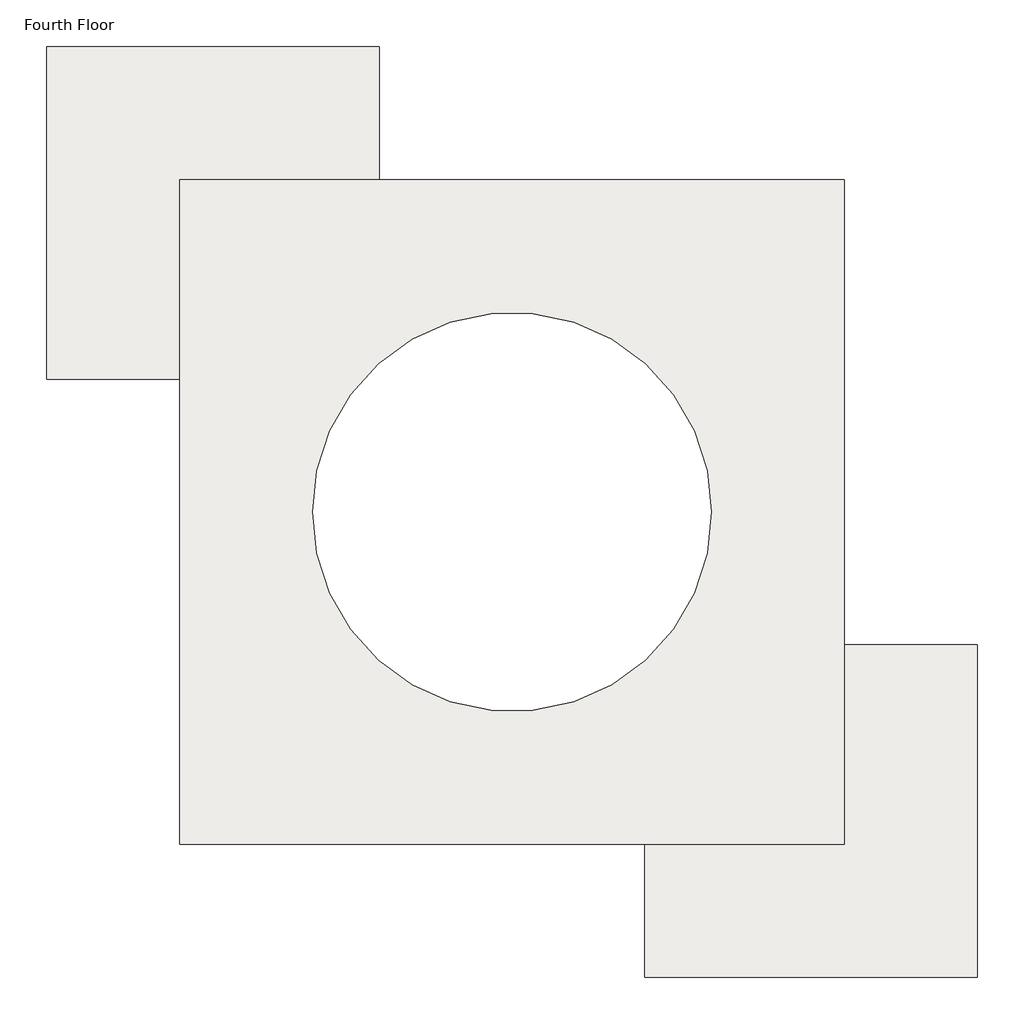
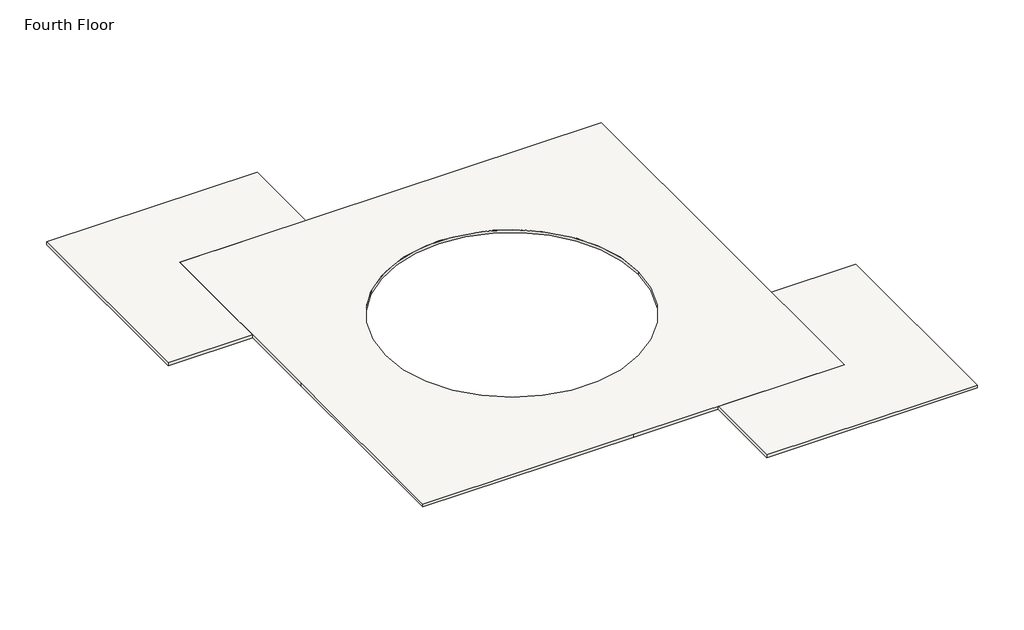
# One storey: 2 slabs.
"""IFC4 building model written with IfcOpenShell, lengths in millimetres."""

import ifcopenshell
import ifcopenshell.guid

model = None  # the IFC model being written
_history = None  # IfcOwnerHistory: only IFC2X3 demands one
_inside = {}  # id of a spatial element -> (the spatial element, [elements in it])
_under = {}  # id of a project, library or spatial element -> (it, [spatial elements below it])
_declared = {}  # id of a project -> (the project, [libraries it declares])
_typed = {}  # id of a type object -> (the type object, [elements of that type])
_made_of = {}  # id of a material, layer set ... -> (it, [elements and type objects made of it])


def new_model(schema):
    """Start an empty IFC model of exactly this schema.

    Asked for "IFC4X3", IfcOpenShell would pick the latest addendum, in which some entities
    have other attributes; the version numbers below select the first issue.
    IFC2X3 requires an IfcOwnerHistory on every rooted entity: one is made here for all.
    """
    global model, _history
    if schema == "IFC4X3":
        model = ifcopenshell.file(schema_version=(4, 3, 0, 0))
    else:
        model = ifcopenshell.file(schema=schema)
    _inside.clear()
    _under.clear()
    _declared.clear()
    _typed.clear()
    _made_of.clear()
    _history = None
    if model.schema == "IFC2X3":
        org = make("IfcOrganization", Name="unknown")
        user = make(
            "IfcPersonAndOrganization",
            ThePerson=make("IfcPerson", FamilyName="unknown"),
            TheOrganization=org,
        )
        app = make(
            "IfcApplication",
            ApplicationDeveloper=org,
            Version="unknown",
            ApplicationFullName="unknown",
            ApplicationIdentifier="unknown",
        )
        _history = make(
            "IfcOwnerHistory",
            OwningUser=user,
            OwningApplication=app,
            ChangeAction="ADDED",
            CreationDate=0,
        )
    return model


def make(cls, **values):
    """One entity of the class cls with the attributes given. An attribute that is None is left unset."""
    return model.create_entity(
        cls, **{name: value for name, value in values.items() if value is not None}
    )


def rooted(cls, **values):
    """An entity with a GlobalId (a new one), such as an element, a storey or a relation."""
    return make(cls, GlobalId=ifcopenshell.guid.new(), OwnerHistory=_history, **values)


def si_unit(unit_type, name, prefix=None):
    """IfcSIUnit, for example si_unit("LENGTHUNIT", "METRE", prefix="MILLI")."""
    return make("IfcSIUnit", UnitType=unit_type, Prefix=prefix, Name=name)


def assignment(units):
    """IfcUnitAssignment: the units of a project."""
    return None if units is None else make("IfcUnitAssignment", Units=units)


def point(xyz):
    """IfcCartesianPoint."""
    return None if xyz is None else make("IfcCartesianPoint", Coordinates=xyz)


def direction(xyz):
    """IfcDirection."""
    return None if xyz is None else make("IfcDirection", DirectionRatios=xyz)


def frame(location, z_axis=None, x_axis=None):
    """IfcAxis2Placement3D, a coordinate frame: its origin and axes. An axis left out is left unset."""
    return make(
        "IfcAxis2Placement3D",
        Location=point(location),
        Axis=direction(z_axis),
        RefDirection=direction(x_axis),
    )


def frame_2d(location, x_axis=None):
    """IfcAxis2Placement2D, a coordinate frame in the plane: its origin and x axis."""
    return make(
        "IfcAxis2Placement2D", Location=point(location), RefDirection=direction(x_axis)
    )


def origin():
    """The frame at (0, 0, 0) with its axes left unset."""
    return frame((0.0, 0.0, 0.0))


def place(relative_to, where):
    """IfcLocalPlacement: puts the frame where relative to a parent placement (None: the world)."""
    return make(
        "IfcLocalPlacement", PlacementRelTo=relative_to, RelativePlacement=where
    )


def context(
    kind, dimensions, precision=None, world=None, true_north=None, identifier=None
):
    """IfcGeometricRepresentationContext, for example the 3D "Model" context."""
    return make(
        "IfcGeometricRepresentationContext",
        ContextIdentifier=identifier,
        ContextType=kind,
        CoordinateSpaceDimension=dimensions,
        Precision=precision,
        WorldCoordinateSystem=world,
        TrueNorth=true_north,
    )


def project(units=None, contexts=None):
    """IfcProject with its units and contexts."""
    return rooted(
        "IfcProject",
        Name="project",
        RepresentationContexts=contexts,
        UnitsInContext=assignment(units),
    )


def spatial(cls, under=None, at=None, **own):
    """A site, building, storey or space (cls), placed at a placement, below another one or the project."""
    s = rooted(cls, ObjectPlacement=at, **own)
    if under is not None:
        _under.setdefault(under.id(), (under, []))[1].append(s)
    return s


def polyline(points):
    """IfcPolyline through the points."""
    return make("IfcPolyline", Points=[point(p) for p in points])


def circle_curve(where, radius):
    """IfcCircle in the frame where."""
    return make("IfcCircle", Position=where, Radius=radius)


def trimmed(basis, trim1, trim2, sense, master):
    """IfcTrimmedCurve: the piece of a basis curve between two trims."""
    return make(
        "IfcTrimmedCurve",
        BasisCurve=basis,
        Trim1=trim1,
        Trim2=trim2,
        SenseAgreement=sense,
        MasterRepresentation=master,
    )


def segment(curve, same_sense, transition):
    """IfcCompositeCurveSegment."""
    return make(
        "IfcCompositeCurveSegment",
        Transition=transition,
        SameSense=same_sense,
        ParentCurve=curve,
    )


def composite_curve(segments, self_intersect=None):
    """IfcCompositeCurve: segments joined end to end."""
    return make("IfcCompositeCurve", Segments=segments, SelfIntersect=self_intersect)


def outline(outer, holes=None, kind="AREA"):
    """IfcArbitraryClosedProfileDef: a profile drawn as a closed curve; with holes, ...WithVoids."""
    if holes is None:
        return make("IfcArbitraryClosedProfileDef", ProfileType=kind, OuterCurve=outer)
    return make(
        "IfcArbitraryProfileDefWithVoids",
        ProfileType=kind,
        OuterCurve=outer,
        InnerCurves=holes,
    )


def extrude(swept, where, along, depth):
    """IfcExtrudedAreaSolid: the profile swept, set in the frame where, extruded along a direction by depth."""
    return make(
        "IfcExtrudedAreaSolid",
        SweptArea=swept,
        Position=where,
        ExtrudedDirection=direction(along),
        Depth=depth,
    )


def shape(context_of_items, identifier, shape_type, items):
    """IfcShapeRepresentation: the items that make up one representation, for example the "Body"."""
    return make(
        "IfcShapeRepresentation",
        ContextOfItems=context_of_items,
        RepresentationIdentifier=identifier,
        RepresentationType=shape_type,
        Items=items,
    )


def made_of(thing, what):
    """Note that an element or type object is made of a material, layer set ...; save() writes the relation."""
    if what is not None:
        _made_of.setdefault(what.id(), (what, []))[1].append(thing)
    return thing


def element(
    cls,
    number,
    at=None,
    inside=None,
    cuts=None,
    type_object=None,
    material=None,
    context=None,
    identifier="Body",
    shape_type=None,
    held_by="IfcProductDefinitionShape",
    body=None,
    shapes=None,
    **own,
):
    """One element of the class cls, such as IfcWall. Its Tag is "e" and its number.

    at: its placement. inside: the storey or other place that contains it. cuts: it is an
    opening in that element (IfcRelVoidsElement). A single representation is given by context,
    identifier, shape_type and body (its items); several are given by shapes. held_by: the class
    of the entity that holds the representations. save() writes the other relations.
    """
    e = rooted(cls, Tag="e%d" % number, ObjectPlacement=at, **own)
    if body is not None:
        shapes = [shape(context, identifier, shape_type, body)]
    if shapes is not None:
        e.Representation = make(held_by, Representations=shapes)
    if inside is not None:
        _inside.setdefault(inside.id(), (inside, []))[1].append(e)
    if cuts is not None:
        rooted(
            "IfcRelVoidsElement", RelatingBuildingElement=cuts, RelatedOpeningElement=e
        )
    if type_object is not None:
        _typed.setdefault(type_object.id(), (type_object, []))[1].append(e)
    return made_of(e, material)


def aggregate(whole, parts):
    """IfcRelAggregates: a whole, such as a stair, and the parts it consists of."""
    return rooted("IfcRelAggregates", RelatingObject=whole, RelatedObjects=parts)


def save(model, path):
    """Write the relations noted so far, then the file.

    IfcRelAggregates (storeys below a building ...), IfcRelContainedInSpatialStructure (elements
    in a storey), IfcRelDefinesByType, IfcRelAssociatesMaterial and IfcRelDeclares: one each for
    every whole, place, type object, material and project.
    """
    for whole, parts in _under.values():
        aggregate(whole, parts)
    for where, things in _inside.values():
        rooted(
            "IfcRelContainedInSpatialStructure",
            RelatedElements=things,
            RelatingStructure=where,
        )
    for kind, things in _typed.values():
        rooted("IfcRelDefinesByType", RelatedObjects=things, RelatingType=kind)
    for what, things in _made_of.values():
        rooted("IfcRelAssociatesMaterial", RelatedObjects=things, RelatingMaterial=what)
    for by, libraries in _declared.values():
        rooted("IfcRelDeclares", RelatingContext=by, RelatedDefinitions=libraries)
    model.write(path)


model = new_model("IFC4")

# Units and contexts
model_context = context("Model", 3, world=origin())
ifc_project = project(units=[si_unit("LENGTHUNIT", "METRE", prefix="MILLI")], contexts=[model_context])

# Site, building, storey
site = spatial("IfcSite", under=ifc_project)
building = spatial("IfcBuilding", under=site)
storey = spatial("IfcBuildingStorey", under=building, Name="Fourth Floor", Elevation=9144.0)

# Slabs
placement = place(None, origin())
element("IfcSlab", 1, ObjectType="LW Concrete on Metal Deck", at=placement, inside=storey, context=model_context, shape_type="SweptSolid", body=[
    extrude(outline(polyline([(5412.36523, 9703.821614), (5412.36523, -5536.178386), (-2207.63477, -5536.178386), (-9827.63477, -5536.178386), (-9827.63477, 2083.821614), (-9827.63477, 9703.821614), (5412.36523, 9703.821614)]), holes=[composite_curve([segment(trimmed(circle_curve(frame_2d((-2207.63477, 2083.821614)), 4572.0), [point((2364.36523, 2083.821614))], [point((-6779.63477, 2083.821614))], True, "CARTESIAN"), True, "CONTINUOUS"), segment(trimmed(circle_curve(frame_2d((-2207.63477, 2083.821614)), 4572.0), [point((-6779.63477, 2083.821614))], [point((2364.36523, 2083.821614))], True, "CARTESIAN"), True, "CONTINUOUS")], self_intersect=False)]), frame((0.0, 0.0, 9039.225), z_axis=(0.0, 0.0, 1.0), x_axis=(1.0, 0.0, 0.0)), (0.0, 0.0, 1.0), 104.775),
])
element("IfcSlab", 2, ObjectType="LW Concrete on Metal Deck", at=placement, inside=storey, context=model_context, shape_type="SweptSolid", body=[
    extrude(outline(polyline([(-5255.63477, 12751.821614), (-5255.63477, 9703.821614), (-9827.63477, 9703.821614), (-9827.63477, 5131.821614), (-12875.63477, 5131.821614), (-12875.63477, 12751.821614), (-5255.63477, 12751.821614)])), frame((0.0, 0.0, 9039.225), z_axis=(0.0, 0.0, 1.0), x_axis=(1.0, 0.0, 0.0)), (0.0, 0.0, 1.0), 104.775),
    extrude(outline(polyline([(8460.36523, -964.178386), (8460.36523, -8584.178386), (840.36523, -8584.178386), (840.36523, -5536.178386), (5412.36523, -5536.178386), (5412.36523, -964.178386), (8460.36523, -964.178386)])), frame((0.0, 0.0, 9039.225), z_axis=(0.0, 0.0, 1.0), x_axis=(1.0, 0.0, 0.0)), (0.0, 0.0, 1.0), 104.775),
])

save(model, "model.ifc")
